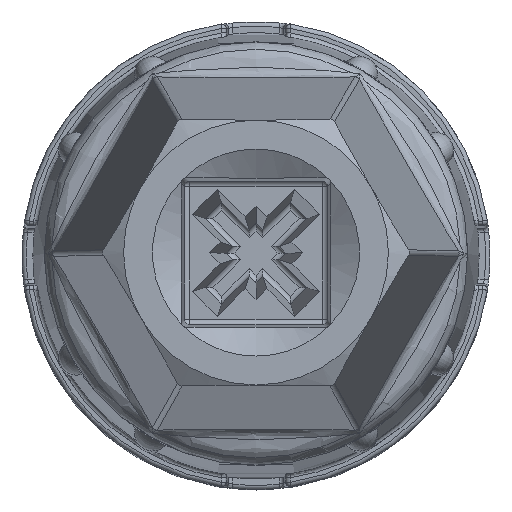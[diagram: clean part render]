
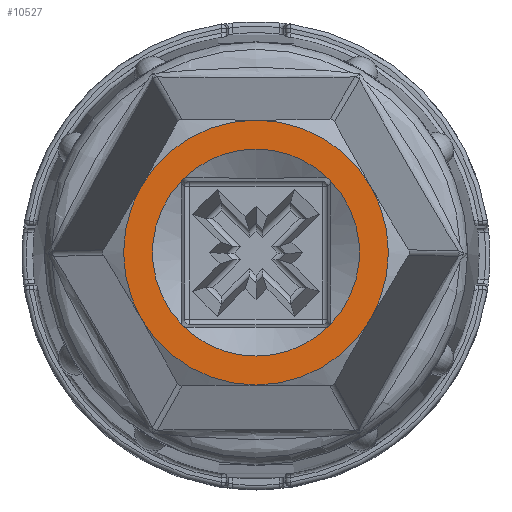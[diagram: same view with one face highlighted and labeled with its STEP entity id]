
A CAD part, top view. The second image highlights one B-rep face of the part: STEP entity #10527.
In plain terms, the highlighted planar face has unit normal (0, 0, 1).
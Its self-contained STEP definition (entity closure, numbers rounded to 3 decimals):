
#1276=CARTESIAN_POINT('',(-5.197,3.001,25.));
#1306=CARTESIAN_POINT('',(-0.031,6.001,
25.));
#1356=CARTESIAN_POINT('',(0.034,6.001,25.));
#1712=CARTESIAN_POINT('',(5.197,3.,25.));
#1719=CARTESIAN_POINT('',(0.031,-6.001,
25.));
#1768=CARTESIAN_POINT('',(-0.034,-6.001,
25.));
#1829=CARTESIAN_POINT('',(0.,6.002,25.));
#1830=CARTESIAN_POINT('',(-0.007,6.002,25.));
#1831=CARTESIAN_POINT('',(-0.015,6.002,
25.));
#1832=CARTESIAN_POINT('',(-0.03,6.001,
25.));
#1833=CARTESIAN_POINT('',(-0.031,6.001,
25.));
#1835=DIRECTION('',(-1.,0.009,0.007));
#1836=VECTOR('',#1835,0.034);
#1837=CARTESIAN_POINT('',(0.034,6.001,25.));
#1838=LINE('',#1837,#1836);
#1839=CARTESIAN_POINT('',(0.,0.,25.));
#1840=DIRECTION('',(0.,0.,1.));
#1841=DIRECTION('',(0.866,0.5,0.));
#1842=AXIS2_PLACEMENT_3D('',#1839,#1840,#1841);
#1844=CARTESIAN_POINT('',(0.,0.,25.));
#1845=DIRECTION('',(0.,0.,1.));
#1846=DIRECTION('',(0.866,-0.5,0.));
#1847=AXIS2_PLACEMENT_3D('',#1844,#1845,#1846);
#1849=CARTESIAN_POINT('',(0.,0.,25.));
#1850=DIRECTION('',(0.,0.,1.));
#1851=DIRECTION('',(0.004,-1.,0.));
#1852=AXIS2_PLACEMENT_3D('',#1849,#1850,#1851);
#1854=CARTESIAN_POINT('',(0.,-6.002,25.));
#1855=CARTESIAN_POINT('',(0.007,-6.002,25.));
#1856=CARTESIAN_POINT('',(0.015,-6.002,
25.));
#1857=CARTESIAN_POINT('',(0.03,-6.001,
25.));
#1858=CARTESIAN_POINT('',(0.031,-6.001,
25.));
#1860=DIRECTION('',(1.,-0.009,0.007));
#1861=VECTOR('',#1860,0.034);
#1862=CARTESIAN_POINT('',(-0.034,-6.001,
25.));
#1863=LINE('',#1862,#1861);
#1864=CARTESIAN_POINT('',(0.,0.,25.));
#1865=DIRECTION('',(0.,0.,1.));
#1866=DIRECTION('',(-0.866,-0.5,0.));
#1867=AXIS2_PLACEMENT_3D('',#1864,#1865,#1866);
#1869=CARTESIAN_POINT('',(0.,0.,25.));
#1870=DIRECTION('',(0.,0.,1.));
#1871=DIRECTION('',(-0.866,0.5,0.));
#1872=AXIS2_PLACEMENT_3D('',#1869,#1870,#1871);
#1874=CARTESIAN_POINT('',(0.,0.,25.));
#1875=DIRECTION('',(0.,0.,1.));
#1876=DIRECTION('',(-0.004,1.,0.));
#1877=AXIS2_PLACEMENT_3D('',#1874,#1875,#1876);
#1879=CARTESIAN_POINT('',(0.,0.,25.));
#1880=DIRECTION('',(0.,0.,-1.));
#1881=DIRECTION('',(-0.702,0.712,0.));
#1882=AXIS2_PLACEMENT_3D('',#1879,#1880,#1881);
#1884=CARTESIAN_POINT('',(-3.316,3.316,25.));
#1885=CARTESIAN_POINT('',(-3.309,3.324,25.));
#1886=CARTESIAN_POINT('',(-3.301,3.331,25.));
#1887=CARTESIAN_POINT('',(-3.292,3.338,25.));
#1889=CARTESIAN_POINT('',(-3.338,3.292,25.));
#1890=CARTESIAN_POINT('',(-3.331,3.301,25.));
#1891=CARTESIAN_POINT('',(-3.324,3.309,25.));
#1892=CARTESIAN_POINT('',(-3.316,3.316,25.));
#1894=CARTESIAN_POINT('',(0.,0.,25.));
#1895=DIRECTION('',(0.,0.,-1.));
#1896=DIRECTION('',(-0.712,-0.702,0.));
#1897=AXIS2_PLACEMENT_3D('',#1894,#1895,#1896);
#1899=CARTESIAN_POINT('',(-3.316,-3.316,25.));
#1900=CARTESIAN_POINT('',(-3.324,-3.309,25.));
#1901=CARTESIAN_POINT('',(-3.331,-3.301,25.));
#1902=CARTESIAN_POINT('',(-3.338,-3.292,25.));
#1904=CARTESIAN_POINT('',(-3.292,-3.338,25.));
#1905=CARTESIAN_POINT('',(-3.301,-3.331,25.));
#1906=CARTESIAN_POINT('',(-3.309,-3.324,25.));
#1907=CARTESIAN_POINT('',(-3.316,-3.316,25.));
#1909=CARTESIAN_POINT('',(0.,0.,25.));
#1910=DIRECTION('',(0.,0.,-1.));
#1911=DIRECTION('',(0.,-1.,0.));
#1912=AXIS2_PLACEMENT_3D('',#1909,#1910,#1911);
#1914=CARTESIAN_POINT('',(0.,0.,25.));
#1915=DIRECTION('',(0.,0.,-1.));
#1916=DIRECTION('',(0.702,-0.712,0.));
#1917=AXIS2_PLACEMENT_3D('',#1914,#1915,#1916);
#1919=CARTESIAN_POINT('',(3.316,-3.316,25.));
#1920=CARTESIAN_POINT('',(3.309,-3.324,25.));
#1921=CARTESIAN_POINT('',(3.301,-3.331,25.));
#1922=CARTESIAN_POINT('',(3.292,-3.338,25.));
#1924=CARTESIAN_POINT('',(3.338,-3.292,25.));
#1925=CARTESIAN_POINT('',(3.331,-3.301,25.));
#1926=CARTESIAN_POINT('',(3.324,-3.309,25.));
#1927=CARTESIAN_POINT('',(3.316,-3.316,25.));
#1929=CARTESIAN_POINT('',(0.,0.,25.));
#1930=DIRECTION('',(0.,0.,-1.));
#1931=DIRECTION('',(0.712,0.702,0.));
#1932=AXIS2_PLACEMENT_3D('',#1929,#1930,#1931);
#1934=CARTESIAN_POINT('',(3.316,3.316,25.));
#1935=CARTESIAN_POINT('',(3.324,3.309,25.));
#1936=CARTESIAN_POINT('',(3.331,3.301,25.));
#1937=CARTESIAN_POINT('',(3.338,3.292,25.));
#1939=CARTESIAN_POINT('',(3.292,3.338,25.));
#1940=CARTESIAN_POINT('',(3.301,3.331,25.));
#1941=CARTESIAN_POINT('',(3.309,3.324,25.));
#1942=CARTESIAN_POINT('',(3.316,3.316,25.));
#1944=CARTESIAN_POINT('',(0.,0.,25.));
#1945=DIRECTION('',(0.,0.,-1.));
#1946=DIRECTION('',(0.,1.,0.));
#1947=AXIS2_PLACEMENT_3D('',#1944,#1945,#1946);
#5564=CARTESIAN_POINT('',(3.292,-3.338,25.));
#5565=CARTESIAN_POINT('',(0.,-4.688,25.));
#5566=VERTEX_POINT('',#5564);
#5567=VERTEX_POINT('',#5565);
#5568=CARTESIAN_POINT('',(-3.292,-3.338,25.));
#5569=VERTEX_POINT('',#5568);
#5570=VERTEX_POINT('',#1907);
#5571=VERTEX_POINT('',#1902);
#5572=CARTESIAN_POINT('',(-3.338,3.292,25.));
#5573=VERTEX_POINT('',#5572);
#5574=VERTEX_POINT('',#1892);
#5575=VERTEX_POINT('',#1887);
#5576=CARTESIAN_POINT('',(0.,4.688,25.));
#5577=VERTEX_POINT('',#5576);
#5578=CARTESIAN_POINT('',(3.292,3.338,25.));
#5579=VERTEX_POINT('',#5578);
#5580=VERTEX_POINT('',#1942);
#5581=VERTEX_POINT('',#1937);
#5582=CARTESIAN_POINT('',(3.338,-3.292,25.));
#5583=VERTEX_POINT('',#5582);
#5584=VERTEX_POINT('',#1927);
#6089=VERTEX_POINT('',#1712);
#6090=CARTESIAN_POINT('',(5.196,-3.,25.));
#6091=VERTEX_POINT('',#6090);
#6092=VERTEX_POINT('',#1356);
#6093=CARTESIAN_POINT('',(0.,6.002,25.));
#6094=VERTEX_POINT('',#6093);
#6095=VERTEX_POINT('',#1719);
#6096=VERTEX_POINT('',#1854);
#6097=VERTEX_POINT('',#1276);
#6098=CARTESIAN_POINT('',(-5.196,-3.,25.));
#6099=VERTEX_POINT('',#6098);
#6100=VERTEX_POINT('',#1768);
#6101=VERTEX_POINT('',#1306);
#10480=CARTESIAN_POINT('',(-9.238,0.,25.));
#10481=DIRECTION('',(0.,0.,1.));
#10482=DIRECTION('',(1.,0.,0.));
#10483=AXIS2_PLACEMENT_3D('',#10480,#10481,#10482);
#10484=PLANE('',#10483);
#10485=ORIENTED_EDGE('',*,*,#8930,.F.);
#10486=ORIENTED_EDGE('',*,*,#8928,.F.);
#10487=ORIENTED_EDGE('',*,*,#10410,.F.);
#10488=ORIENTED_EDGE('',*,*,#10427,.F.);
#10489=ORIENTED_EDGE('',*,*,#10396,.F.);
#10490=ORIENTED_EDGE('',*,*,#10449,.F.);
#10491=ORIENTED_EDGE('',*,*,#10447,.F.);
#10492=ORIENTED_EDGE('',*,*,#8886,.F.);
#10493=ORIENTED_EDGE('',*,*,#8901,.F.);
#10494=ORIENTED_EDGE('',*,*,#8872,.F.);
#10495=EDGE_LOOP('',(#10485,#10486,#10487,#10488,#10489,#10490,#10491,#10492,
#10493,#10494));
#10496=FACE_OUTER_BOUND('',#10495,.F.);
#10498=ORIENTED_EDGE('',*,*,#10497,.F.);
#10500=ORIENTED_EDGE('',*,*,#10499,.F.);
#10502=ORIENTED_EDGE('',*,*,#10501,.F.);
#10504=ORIENTED_EDGE('',*,*,#10503,.F.);
#10506=ORIENTED_EDGE('',*,*,#10505,.F.);
#10508=ORIENTED_EDGE('',*,*,#10507,.F.);
#10510=ORIENTED_EDGE('',*,*,#10509,.F.);
#10512=ORIENTED_EDGE('',*,*,#10511,.F.);
#10514=ORIENTED_EDGE('',*,*,#10513,.F.);
#10516=ORIENTED_EDGE('',*,*,#10515,.F.);
#10518=ORIENTED_EDGE('',*,*,#10517,.F.);
#10520=ORIENTED_EDGE('',*,*,#10519,.F.);
#10522=ORIENTED_EDGE('',*,*,#10521,.F.);
#10524=ORIENTED_EDGE('',*,*,#10523,.F.);
#10525=EDGE_LOOP('',(#10498,#10500,#10502,#10504,#10506,#10508,#10510,#10512,
#10514,#10516,#10518,#10520,#10522,#10524));
#10526=FACE_BOUND('',#10525,.F.);
#10527=ADVANCED_FACE('',(#10496,#10526),#10484,.T.);
#1834=B_SPLINE_CURVE_WITH_KNOTS('',3,(#1829,#1830,#1831,#1832,#1833),
.UNSPECIFIED.,.F.,.F.,(4,1,4),(0.,0.5,1.),.UNSPECIFIED.);
#1843=CIRCLE('',#1842,6.);
#1848=CIRCLE('',#1847,6.);
#1853=CIRCLE('',#1852,6.);
#1859=B_SPLINE_CURVE_WITH_KNOTS('',3,(#1854,#1855,#1856,#1857,#1858),
.UNSPECIFIED.,.F.,.F.,(4,1,4),(0.,0.5,1.),.UNSPECIFIED.);
#1868=CIRCLE('',#1867,6.);
#1873=CIRCLE('',#1872,6.);
#1878=CIRCLE('',#1877,6.);
#1883=CIRCLE('',#1882,4.688);
#1888=B_SPLINE_CURVE_WITH_KNOTS('',3,(#1884,#1885,#1886,#1887),.UNSPECIFIED.,
.F.,.F.,(4,4),(0.,1.),.UNSPECIFIED.);
#1893=B_SPLINE_CURVE_WITH_KNOTS('',3,(#1889,#1890,#1891,#1892),.UNSPECIFIED.,
.F.,.F.,(4,4),(0.,1.),.UNSPECIFIED.);
#1898=CIRCLE('',#1897,4.688);
#1903=B_SPLINE_CURVE_WITH_KNOTS('',3,(#1899,#1900,#1901,#1902),.UNSPECIFIED.,
.F.,.F.,(4,4),(0.,1.),.UNSPECIFIED.);
#1908=B_SPLINE_CURVE_WITH_KNOTS('',3,(#1904,#1905,#1906,#1907),.UNSPECIFIED.,
.F.,.F.,(4,4),(0.,1.),.UNSPECIFIED.);
#1913=CIRCLE('',#1912,4.688);
#1918=CIRCLE('',#1917,4.688);
#1923=B_SPLINE_CURVE_WITH_KNOTS('',3,(#1919,#1920,#1921,#1922),.UNSPECIFIED.,
.F.,.F.,(4,4),(0.,1.),.UNSPECIFIED.);
#1928=B_SPLINE_CURVE_WITH_KNOTS('',3,(#1924,#1925,#1926,#1927),.UNSPECIFIED.,
.F.,.F.,(4,4),(0.,1.),.UNSPECIFIED.);
#1933=CIRCLE('',#1932,4.688);
#1938=B_SPLINE_CURVE_WITH_KNOTS('',3,(#1934,#1935,#1936,#1937),.UNSPECIFIED.,
.F.,.F.,(4,4),(0.,1.),.UNSPECIFIED.);
#1943=B_SPLINE_CURVE_WITH_KNOTS('',3,(#1939,#1940,#1941,#1942),.UNSPECIFIED.,
.F.,.F.,(4,4),(0.,1.),.UNSPECIFIED.);
#1948=CIRCLE('',#1947,4.688);
#8872=EDGE_CURVE('',#6101,#6097,#1878,.T.);
#8886=EDGE_CURVE('',#6099,#6100,#1868,.T.);
#8901=EDGE_CURVE('',#6097,#6099,#1873,.T.);
#8928=EDGE_CURVE('',#6092,#6094,#1838,.T.);
#8930=EDGE_CURVE('',#6094,#6101,#1834,.T.);
#10396=EDGE_CURVE('',#6095,#6091,#1853,.T.);
#10410=EDGE_CURVE('',#6089,#6092,#1843,.T.);
#10427=EDGE_CURVE('',#6091,#6089,#1848,.T.);
#10447=EDGE_CURVE('',#6100,#6096,#1863,.T.);
#10449=EDGE_CURVE('',#6096,#6095,#1859,.T.);
#10497=EDGE_CURVE('',#5575,#5577,#1883,.T.);
#10499=EDGE_CURVE('',#5574,#5575,#1888,.T.);
#10501=EDGE_CURVE('',#5573,#5574,#1893,.T.);
#10503=EDGE_CURVE('',#5571,#5573,#1898,.T.);
#10505=EDGE_CURVE('',#5570,#5571,#1903,.T.);
#10507=EDGE_CURVE('',#5569,#5570,#1908,.T.);
#10509=EDGE_CURVE('',#5567,#5569,#1913,.T.);
#10511=EDGE_CURVE('',#5566,#5567,#1918,.T.);
#10513=EDGE_CURVE('',#5584,#5566,#1923,.T.);
#10515=EDGE_CURVE('',#5583,#5584,#1928,.T.);
#10517=EDGE_CURVE('',#5581,#5583,#1933,.T.);
#10519=EDGE_CURVE('',#5580,#5581,#1938,.T.);
#10521=EDGE_CURVE('',#5579,#5580,#1943,.T.);
#10523=EDGE_CURVE('',#5577,#5579,#1948,.T.);
